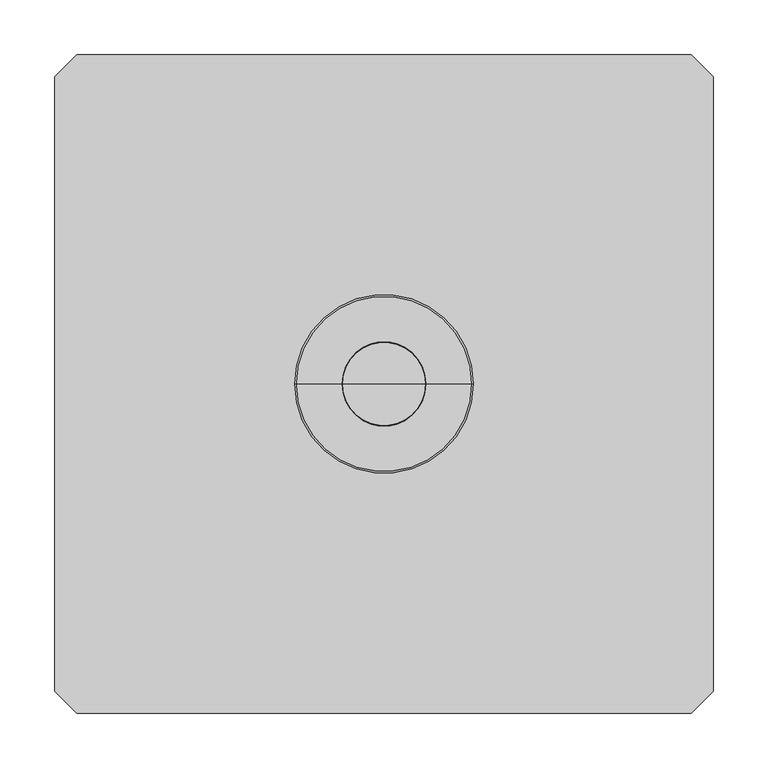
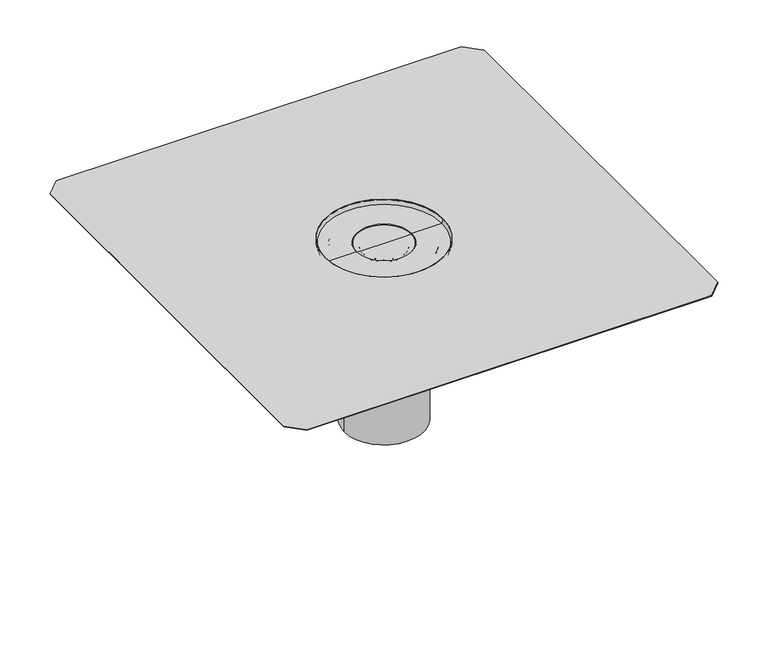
"""IFC4 building model written with IfcOpenShell, lengths in millimetres: sanitary terminal geometry, NLRS_52_PF_LB_dampbarrière-aansluiting_geb : d110 - 25L/s."""

from ifc_helpers import new_model, si_unit, point, frame, origin, origin_2d, place, context, project, spatial, polyline, circle_curve, ellipse_curve, trimmed, segment, composite_curve, outline, extrude, source, transform, mapped, element, save
from ifc_brep_helpers import plane_surface, cylinder_surface, revolved_surface, advanced_brep


def sanitary_terminal_1db09d45(model_context):
    return source(origin(), model_context, "Body", "SolidModel", [
        advanced_brep(
        [(-55.0, 0.0, -264.0), (55.0, 0.0, -264.0), (55.0, 0.0, -18.0), (-55.0, 0.0, -18.0), (-66.0, 0.0, -18.0), (66.0, 0.0, -18.0), (66.0, 0.0, -7.5), (-66.0, 0.0, -7.5), (0.0, 0.0, -7.5)],
        [
            (0, 1, circle_curve(frame((0.0, 0.0, -264.0), z_axis=(0.0, 0.0, -1.0), x_axis=(1.0, 0.0, 0.0)), 55.0)),
            (1, 0, circle_curve(frame((0.0, 0.0, -264.0), z_axis=(0.0, 0.0, -1.0), x_axis=(1.0, 0.0, 0.0)), 55.0)),
            (1, 2),
            (2, 3, circle_curve(frame((0.0, 0.0, -18.0), z_axis=(0.0, 0.0, -1.0), x_axis=(1.0, 0.0, 0.0)), 55.0)),
            (3, 0),
            (3, 2, circle_curve(frame((0.0, 0.0, -18.0), z_axis=(0.0, 0.0, -1.0), x_axis=(1.0, 0.0, 0.0)), 55.0)),
            (4, 5, circle_curve(frame((0.0, 0.0, -18.0), z_axis=(0.0, 0.0, -1.0), x_axis=(-1.0, 0.0, 0.0)), 66.0)),
            (5, 2),
            (3, 4),
            (5, 4, circle_curve(frame((0.0, 0.0, -18.0), z_axis=(0.0, 0.0, -1.0), x_axis=(-1.0, 0.0, 0.0)), 66.0)),
            (6, 7, circle_curve(frame((0.0, 0.0, -7.5), z_axis=(0.0, 0.0, 1.0), x_axis=(-1.0, 0.0, 0.0)), 66.0)),
            (7, 8),
            (8, 6),
            (7, 6, circle_curve(frame((0.0, 0.0, -7.5), z_axis=(0.0, 0.0, 1.0), x_axis=(-1.0, 0.0, 0.0)), 66.0)),
            (4, 7),
            (6, 5),
        ],
        [
            plane_surface(frame((55.0, 0.0, -264.0), z_axis=(0.0, 0.0, -1.0), x_axis=(0.0, -1.0, 0.0))),
            cylinder_surface(frame((0.0, 0.0, -264.0), z_axis=(0.0, 0.0, 1.0), x_axis=(1.0, 0.0, 0.0)), 55.0),
            plane_surface(frame((0.0, 0.0, -18.0), z_axis=(0.0, 0.0, -1.0), x_axis=(-1.0, 0.0, 0.0))),
            plane_surface(frame((0.0, 0.0, -7.5), z_axis=(0.0, 0.0, 1.0), x_axis=(-1.0, 0.0, 0.0))),
            cylinder_surface(frame((0.0, 0.0, 2.5), z_axis=(0.0, 0.0, -1.0), x_axis=(-1.0, 0.0, 0.0)), 66.0),
        ],
        [
            (0, [[1, 2]]),
            (1, [[-2, 3, 4, 5]]),
            (1, [[-1, -5, 6, -3]]),
            (2, [[7, 8, -6, 9]]),
            (2, [[10, -9, -4, -8]]),
            (3, [[11, 12, 13]]),
            (3, [[-12, 14, -13]]),
            (4, [[-7, 15, -11, 16]]),
            (4, [[-10, -16, -14, -15]]),
        ],
    ),
        extrude(outline(polyline([(-300.0, 280.0), (-280.0, 300.0), (280.0, 300.0), (300.0, 280.0), (300.0, -280.0), (280.0, -300.0), (-280.0, -300.0), (-300.0, -280.0), (-300.0, 280.0)]), holes=[composite_curve([segment(trimmed(circle_curve(origin_2d(), 81.4762521), [point((-81.4762521, 0.0))], [point((81.4762521, 0.0))], True, "CARTESIAN"), True, "CONTINUOUS"), segment(trimmed(circle_curve(origin_2d(), 81.4762521), [point((81.4762521, 0.0))], [point((-81.4762521, 0.0))], True, "CARTESIAN"), True, "CONTINUOUS")], self_intersect=False)]), frame((0.0, 0.0, -1.0), z_axis=(0.0, 0.0, 1.0), x_axis=(1.0, 0.0, 0.0)), (0.0, 0.0, 1.0), 1.0),
        advanced_brep(
        [(81.003593, 0.0, -7.5), (-81.0, 0.0, -7.5), (-82.7416698, 0.0, -1.0), (82.7452627, 0.0, -1.0), (38.8724346, 0.0, -7.5), (-38.8688416, 0.0, -7.5), (79.7611141, 0.0, -6.4143914), (-79.7575211, 0.0, -6.4143914), (-38.634088, 0.0, -6.4143914), (38.637681, 0.0, -6.4143914), (81.479845, 0.0, 0.0), (-81.4762521, 0.0, 0.0), (36.3125514, 0.0, -9.5), (-36.3089584, 0.0, -9.5), (33.2965593, 0.0, -9.5), (-33.2929663, 0.0, -9.5), (30.2728829, 0.0, -12.5236764), (-30.2692899, 0.0, -12.5236764), (29.2728829, 0.0, -12.5236764), (-29.2692899, 0.0, -12.5236764), (33.2965593, 0.0, -8.5), (-33.2929663, 0.0, -8.5), (35.9682238, 0.0, -8.5), (-35.9646308, 0.0, -8.5), (81.479845, 0.0, -1.0), (-81.4762521, 0.0, -1.0)],
        [
            (0, 1, circle_curve(frame((0.0017965, 0.0, -7.5), z_axis=(0.0, 0.0, 1.0), x_axis=(-1.0, 0.0, 0.0)), 81.0017965)),
            (1, 2),
            (2, 3, circle_curve(frame((0.0017965, 0.0, -1.0), z_axis=(0.0, 0.0, -1.0), x_axis=(-1.0, 0.0, 0.0)), 82.7434662)),
            (3, 0),
            (1, 0, circle_curve(frame((0.0017965, 0.0, -7.5), z_axis=(0.0, 0.0, 1.0), x_axis=(-1.0, 0.0, 0.0)), 81.0017965)),
            (3, 2, circle_curve(frame((0.0017965, 0.0, -1.0), z_axis=(0.0, 0.0, -1.0), x_axis=(-1.0, 0.0, 0.0)), 82.7434662)),
            (4, 5, circle_curve(frame((0.0017965, 0.0, -7.5), z_axis=(0.0, 0.0, 1.0), x_axis=(-1.0, 0.0, 0.0)), 38.8706381)),
            (5, 1),
            (0, 4),
            (5, 4, circle_curve(frame((0.0017965, 0.0, -7.5), z_axis=(0.0, 0.0, 1.0), x_axis=(-1.0, 0.0, 0.0)), 38.8706381)),
            (6, 7, circle_curve(frame((0.0017965, 0.0, -6.4143914), z_axis=(0.0, 0.0, 1.0), x_axis=(-1.0, 0.0, 0.0)), 79.7593176)),
            (7, 8),
            (8, 9, circle_curve(frame((0.0017965, 0.0, -6.4143914), z_axis=(0.0, 0.0, -1.0), x_axis=(-1.0, 0.0, 0.0)), 38.6358845)),
            (9, 6),
            (7, 6, circle_curve(frame((0.0017965, 0.0, -6.4143914), z_axis=(0.0, 0.0, 1.0), x_axis=(-1.0, 0.0, 0.0)), 79.7593176)),
            (9, 8, circle_curve(frame((0.0017965, 0.0, -6.4143914), z_axis=(0.0, 0.0, -1.0), x_axis=(-1.0, 0.0, 0.0)), 38.6358845)),
            (10, 11, circle_curve(frame((0.0017965, 0.0, 0.0), z_axis=(0.0, 0.0, 1.0), x_axis=(-1.0, 0.0, 0.0)), 81.4780486)),
            (11, 7),
            (6, 10),
            (11, 10, circle_curve(frame((0.0017965, 0.0, 0.0), z_axis=(0.0, 0.0, 1.0), x_axis=(-1.0, 0.0, 0.0)), 81.4780486)),
            (12, 13, circle_curve(frame((0.0017965, 0.0, -9.5), z_axis=(0.0, 0.0, 1.0), x_axis=(-1.0, 0.0, 0.0)), 36.3107549)),
            (13, 5),
            (4, 12),
            (13, 12, circle_curve(frame((0.0017965, 0.0, -9.5), z_axis=(0.0, 0.0, 1.0), x_axis=(-1.0, 0.0, 0.0)), 36.3107549)),
            (14, 15, circle_curve(frame((0.0017965, 0.0, -9.5), z_axis=(0.0, 0.0, 1.0), x_axis=(-1.0, 0.0, 0.0)), 33.2947628)),
            (15, 13),
            (12, 14),
            (15, 14, circle_curve(frame((0.0017965, 0.0, -9.5), z_axis=(0.0, 0.0, 1.0), x_axis=(-1.0, 0.0, 0.0)), 33.2947628)),
            (16, 17, circle_curve(frame((0.0017965, 0.0, -12.5236764), z_axis=(0.0, 0.0, 1.0), x_axis=(-1.0, 0.0, 0.0)), 30.2710864)),
            (17, 15, circle_curve(frame((-33.2929663, 0.0, -12.5236764), z_axis=(0.0, -1.0, 0.0), x_axis=(1.0, 0.0, 0.0)), 3.0236764)),
            (14, 16, circle_curve(frame((33.2965593, 0.0, -12.5236764), z_axis=(0.0, -1.0, 0.0), x_axis=(-1.0, 0.0, 0.0)), 3.0236764)),
            (17, 16, circle_curve(frame((0.0017965, 0.0, -12.5236764), z_axis=(0.0, 0.0, 1.0), x_axis=(-1.0, 0.0, 0.0)), 30.2710864)),
            (18, 19, circle_curve(frame((0.0017965, 0.0, -12.5236764), z_axis=(0.0, 0.0, 1.0), x_axis=(-1.0, 0.0, 0.0)), 29.2710864)),
            (19, 17),
            (16, 18),
            (19, 18, circle_curve(frame((0.0017965, 0.0, -12.5236764), z_axis=(0.0, 0.0, 1.0), x_axis=(-1.0, 0.0, 0.0)), 29.2710864)),
            (20, 21, circle_curve(frame((0.0017965, 0.0, -8.5), z_axis=(0.0, 0.0, 1.0), x_axis=(-1.0, 0.0, 0.0)), 33.2947628)),
            (21, 19, circle_curve(frame((-33.2929663, 0.0, -12.5236764), z_axis=(0.0, 1.0, 0.0), x_axis=(1.0, 0.0, 0.0)), 4.0236764)),
            (18, 20, circle_curve(frame((33.2965593, 0.0, -12.5236764), z_axis=(0.0, 1.0, 0.0), x_axis=(-1.0, 0.0, 0.0)), 4.0236764)),
            (21, 20, circle_curve(frame((0.0017965, 0.0, -8.5), z_axis=(0.0, 0.0, 1.0), x_axis=(-1.0, 0.0, 0.0)), 33.2947628)),
            (22, 23, circle_curve(frame((0.0017965, 0.0, -8.5), z_axis=(0.0, 0.0, 1.0), x_axis=(-1.0, 0.0, 0.0)), 35.9664273)),
            (23, 21),
            (20, 22),
            (23, 22, circle_curve(frame((0.0017965, 0.0, -8.5), z_axis=(0.0, 0.0, 1.0), x_axis=(-1.0, 0.0, 0.0)), 35.9664273)),
            (8, 23),
            (22, 9),
            (24, 25, circle_curve(frame((0.0017965, 0.0, -1.0), z_axis=(0.0, 0.0, 1.0), x_axis=(-1.0, 0.0, 0.0)), 81.4780486)),
            (25, 11),
            (10, 24),
            (25, 24, circle_curve(frame((0.0017965, 0.0, -1.0), z_axis=(0.0, 0.0, 1.0), x_axis=(-1.0, 0.0, 0.0)), 81.4780486)),
            (2, 25),
            (24, 3),
        ],
        [
            revolved_surface(polyline([(-82.7416698, 0.0, -1.0), (-81.0, 0.0, -7.5)]), (0.0017965, 0.0, -6.4143914), (0.0, 0.0, -1.0)),
            plane_surface(frame((0.0017965, 0.0, -7.5), z_axis=(0.0, 0.0, -1.0), x_axis=(-1.0, 0.0, 0.0))),
            plane_surface(frame((0.0017965, 0.0, -6.4143914), z_axis=(0.0, 0.0, 1.0), x_axis=(-1.0, 0.0, 0.0))),
            revolved_surface(polyline([(-79.7575211, 0.0, -6.4143914), (-81.4762521, 0.0, 0.0)]), (0.0017965, 0.0, -6.4143914), (0.0, 0.0, -1.0)),
            revolved_surface(polyline([(-38.8688416, 0.0, -7.5), (-36.3089584, 0.0, -9.5)]), (0.0017965, 0.0, -6.4143914), (0.0, 0.0, -1.0)),
            plane_surface(frame((0.0017965, 0.0, -9.5), z_axis=(0.0, 0.0, -1.0), x_axis=(-1.0, 0.0, 0.0))),
            revolved_surface(trimmed(ellipse_curve(frame((-33.2929663, 0.0, -12.5236764), z_axis=(0.0, 1.0, 0.0), x_axis=(1.0, 0.0, 0.0)), 3.0236764, 3.0236764), [point((-33.2929663, 0.0, -9.5))], [point((-30.2692899, 0.0, -12.5236764))], True, "CARTESIAN"), (0.0017965, 0.0, -6.4143914), (0.0, 0.0, -1.0)),
            plane_surface(frame((0.0017965, 0.0, -12.5236764), z_axis=(0.0, 0.0, -1.0), x_axis=(-1.0, 0.0, 0.0))),
            revolved_surface(trimmed(ellipse_curve(frame((-33.2929663, 0.0, -12.5236764), z_axis=(0.0, -1.0, 0.0), x_axis=(1.0, 0.0, 0.0)), 4.0236764, 4.0236764), [point((-29.2692899, 0.0, -12.5236764))], [point((-33.2929663, 0.0, -8.5))], True, "CARTESIAN"), (0.0017965, 0.0, -6.4143914), (0.0, 0.0, -1.0)),
            plane_surface(frame((0.0017965, 0.0, -8.5), z_axis=(0.0, 0.0, 1.0), x_axis=(-1.0, 0.0, 0.0))),
            revolved_surface(polyline([(-35.9646308, 0.0, -8.5), (-38.634088, 0.0, -6.4143914)]), (0.0017965, 0.0, -6.4143914), (0.0, 0.0, -1.0)),
            cylinder_surface(frame((0.0017965, 0.0, -6.4143914), z_axis=(0.0, 0.0, -1.0), x_axis=(-1.0, 0.0, 0.0)), 81.4780486),
            plane_surface(frame((0.0017965, 0.0, -1.0), z_axis=(0.0, 0.0, 1.0), x_axis=(-1.0, 0.0, 0.0))),
        ],
        [
            (0, [[1, 2, 3, 4]]),
            (0, [[5, -4, 6, -2]]),
            (1, [[7, 8, -1, 9]]),
            (1, [[10, -9, -5, -8]]),
            (2, [[11, 12, 13, 14]]),
            (2, [[15, -14, 16, -12]]),
            (3, [[17, 18, -11, 19]]),
            (3, [[20, -19, -15, -18]]),
            (4, [[21, 22, -7, 23]]),
            (4, [[24, -23, -10, -22]]),
            (5, [[25, 26, -21, 27]]),
            (5, [[28, -27, -24, -26]]),
            (6, [[29, 30, -25, 31]]),
            (6, [[32, -31, -28, -30]]),
            (7, [[33, 34, -29, 35]]),
            (7, [[36, -35, -32, -34]]),
            (8, [[37, 38, -33, 39]]),
            (8, [[40, -39, -36, -38]]),
            (9, [[41, 42, -37, 43]]),
            (9, [[44, -43, -40, -42]]),
            (10, [[-13, 45, -41, 46]]),
            (10, [[-16, -46, -44, -45]]),
            (11, [[47, 48, -17, 49]]),
            (11, [[50, -49, -20, -48]]),
            (12, [[-3, 51, -47, 52]]),
            (12, [[-6, -52, -50, -51]]),
        ],
    ),
        advanced_brep(
        [(100.0, 100.0, -1.0), (-100.0, 100.0, -1.0), (-100.0, -100.0, -1.0), (100.0, -100.0, -1.0), (-82.7416698, 0.0, -1.0), (82.7416698, 0.0, -1.0), (100.0, 100.0, -50.0), (100.0, -100.0, -50.0), (-100.0, -100.0, -50.0), (-100.0, 100.0, -50.0), (45.0, 0.0, -50.0), (-45.0, 0.0, -50.0), (66.0, 0.0, -7.5), (81.0, 0.0, -7.5), (-81.0, 0.0, -7.5), (-66.0, 0.0, -7.5), (-66.0, 0.0, -18.0), (66.0, 0.0, -18.0), (-45.0, 0.0, -18.0), (45.0, 0.0, -18.0)],
        [
            (0, 1),
            (1, 2),
            (2, 3),
            (3, 0),
            (4, 5, circle_curve(frame((0.0, 0.0, -1.0), z_axis=(0.0, 0.0, -1.0), x_axis=(-1.0, 0.0, 0.0)), 82.7416698)),
            (5, 4, circle_curve(frame((0.0, 0.0, -1.0), z_axis=(0.0, 0.0, -1.0), x_axis=(-1.0, 0.0, 0.0)), 82.7416698)),
            (6, 7),
            (7, 8),
            (8, 9),
            (9, 6),
            (10, 11, circle_curve(frame((0.0, 0.0, -50.0), z_axis=(0.0, 0.0, 1.0), x_axis=(-1.0, 0.0, 0.0)), 45.0)),
            (11, 10, circle_curve(frame((0.0, 0.0, -50.0), z_axis=(0.0, 0.0, 1.0), x_axis=(-1.0, 0.0, 0.0)), 45.0)),
            (0, 6),
            (9, 1),
            (8, 2),
            (7, 3),
            (12, 13),
            (13, 14, circle_curve(frame((0.0, 0.0, -7.5), z_axis=(0.0, 0.0, 1.0), x_axis=(-1.0, 0.0, 0.0)), 81.0)),
            (14, 15),
            (15, 12, circle_curve(frame((0.0, 0.0, -7.5), z_axis=(0.0, 0.0, -1.0), x_axis=(-1.0, 0.0, 0.0)), 66.0)),
            (12, 15, circle_curve(frame((0.0, 0.0, -7.5), z_axis=(0.0, 0.0, -1.0), x_axis=(-1.0, 0.0, 0.0)), 66.0)),
            (14, 13, circle_curve(frame((0.0, 0.0, -7.5), z_axis=(0.0, 0.0, 1.0), x_axis=(-1.0, 0.0, 0.0)), 81.0)),
            (15, 16),
            (16, 17, circle_curve(frame((0.0, 0.0, -18.0), z_axis=(0.0, 0.0, -1.0), x_axis=(-1.0, 0.0, 0.0)), 66.0)),
            (17, 12),
            (17, 16, circle_curve(frame((0.0, 0.0, -18.0), z_axis=(0.0, 0.0, -1.0), x_axis=(-1.0, 0.0, 0.0)), 66.0)),
            (16, 18),
            (18, 19, circle_curve(frame((0.0, 0.0, -18.0), z_axis=(0.0, 0.0, -1.0), x_axis=(-1.0, 0.0, 0.0)), 45.0)),
            (19, 17),
            (19, 18, circle_curve(frame((0.0, 0.0, -18.0), z_axis=(0.0, 0.0, -1.0), x_axis=(-1.0, 0.0, 0.0)), 45.0)),
            (18, 11),
            (10, 19),
            (13, 5),
            (4, 14),
        ],
        [
            plane_surface(frame((-100.0, 100.0, -1.0), z_axis=(0.0, 0.0, 1.0), x_axis=(-1.0, 0.0, 0.0))),
            plane_surface(frame((-100.0, 100.0, -50.0), z_axis=(0.0, 0.0, -1.0), x_axis=(1.0, 0.0, 0.0))),
            plane_surface(frame((100.0, 100.0, -1.0), z_axis=(0.0, 1.0, 0.0), x_axis=(0.0, 0.0, -1.0))),
            plane_surface(frame((-100.0, 100.0, -1.0), z_axis=(-1.0, 0.0, 0.0), x_axis=(0.0, 0.0, -1.0))),
            plane_surface(frame((-100.0, -100.0, -1.0), z_axis=(0.0, -1.0, 0.0), x_axis=(0.0, 0.0, -1.0))),
            plane_surface(frame((100.0, -100.0, -1.0), z_axis=(1.0, 0.0, 0.0), x_axis=(0.0, 0.0, -1.0))),
            plane_surface(frame((0.0, 0.0, -7.5), z_axis=(0.0, 0.0, 1.0), x_axis=(-1.0, 0.0, 0.0))),
            revolved_surface(polyline([(-66.0, 0.0, -18.0), (-66.0, 0.0, -7.5)]), (0.0, 0.0, 4.0), (0.0, 0.0, -1.0)),
            plane_surface(frame((0.0, 0.0, -18.0), z_axis=(0.0, 0.0, 1.0), x_axis=(-1.0, 0.0, 0.0))),
            revolved_surface(polyline([(-45.0, 0.0, -50.0), (-45.0, 0.0, -18.0)]), (0.0, 0.0, 4.0), (0.0, 0.0, -1.0)),
            revolved_surface(polyline([(-81.0, 0.0, -7.5), (-82.7416698, 0.0, -1.0)]), (0.0, 0.0, 4.0), (0.0, 0.0, -1.0)),
        ],
        [
            (0, [[1, 2, 3, 4], [5, 6]]),
            (1, [[7, 8, 9, 10], [11, 12]]),
            (2, [[-1, 13, -10, 14]]),
            (3, [[-2, -14, -9, 15]]),
            (4, [[-3, -15, -8, 16]]),
            (5, [[-4, -16, -7, -13]]),
            (6, [[17, 18, 19, 20]]),
            (6, [[-17, 21, -19, 22]]),
            (7, [[-20, 23, 24, 25]]),
            (7, [[-21, -25, 26, -23]]),
            (8, [[-24, 27, 28, 29]]),
            (8, [[-26, -29, 30, -27]]),
            (9, [[-28, 31, -11, 32]]),
            (9, [[-30, -32, -12, -31]]),
            (10, [[-18, 33, -5, 34]]),
            (10, [[-22, -34, -6, -33]]),
        ],
    ),
    ])


if __name__ == "__main__":
    model = new_model("IFC4")
    model_context = context("Model", 3, world=origin())
    ifc_project = project(units=[si_unit("LENGTHUNIT", "METRE", prefix="MILLI")], contexts=[model_context])
    site = spatial("IfcSite", under=ifc_project)
    building = spatial("IfcBuilding", under=site)
    placement = place(None, origin())
    sanitary_terminal_shape = sanitary_terminal_1db09d45(model_context)
    element("IfcSanitaryTerminal", 1, ObjectType="NLRS_52_PF_LB_dampbarrière-aansluiting_geb : d110 - 25L/s", at=placement, inside=building, context=model_context, shape_type="MappedRepresentation", body=[
        mapped(sanitary_terminal_shape, transform((0.0, 0.0, 0.0), x_axis=(1.0, 0.0, 0.0), y_axis=(0.0, 1.0, 0.0), z_axis=(0.0, 0.0, 1.0))),
    ])
    save(model, "model.ifc")
